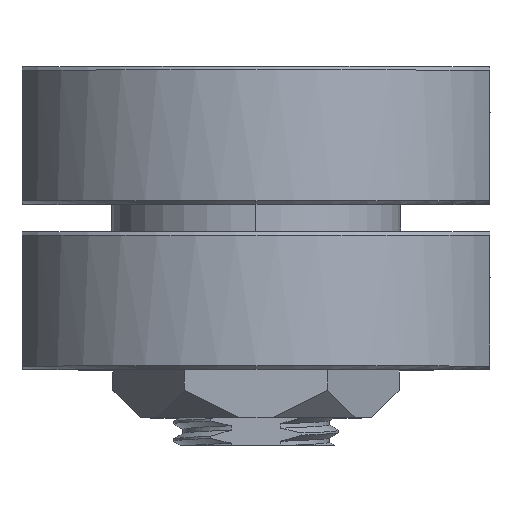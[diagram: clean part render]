
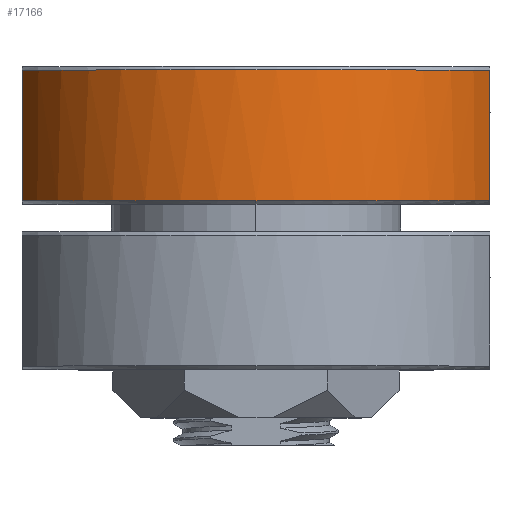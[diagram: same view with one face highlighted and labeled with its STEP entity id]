
A CAD part, top view. The second image highlights one B-rep face of the part: STEP entity #17166.
In plain terms, the highlighted cylindrical face has radius 18 mm (diameter 36 mm), a partial arc.
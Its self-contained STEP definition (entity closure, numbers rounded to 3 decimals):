
#13402 = CARTESIAN_POINT ( 'NONE',  ( 17., -10.5, 5.916 ) ) ;
#15048 = LINE ( 'NONE', #13402, #16969 ) ;
#15572 = ORIENTED_EDGE ( 'NONE', *, *, #107697, .T. ) ;
#15684 = EDGE_LOOP ( 'NONE', ( #76435, #79820, #54258, #52063, #15572 ) ) ;
#16969 = VECTOR ( 'NONE', #31929, 1000. ) ;
#17166 = ADVANCED_FACE ( 'NONE', ( #21940 ), #73151, .T. ) ;
#17733 = CARTESIAN_POINT ( 'NONE',  ( 0., 12.25, 0. ) ) ;
#21457 = AXIS2_PLACEMENT_3D ( 'NONE', #17733, #75212, #58308 ) ;
#21940 = FACE_OUTER_BOUND ( 'NONE', #15684, .T. ) ;
#30821 = EDGE_CURVE ( 'NONE', #86412, #109316, #60902, .T. ) ;
#31322 = CARTESIAN_POINT ( 'NONE',  ( 17., 12.25, 5.916 ) ) ;
#31717 = CARTESIAN_POINT ( 'NONE',  ( 0., 21.75, 0. ) ) ;
#31929 = DIRECTION ( 'NONE',  ( 0., 1., 0. ) ) ;
#32803 = DIRECTION ( 'NONE',  ( 0., -1., 0. ) ) ;
#36752 = CARTESIAN_POINT ( 'NONE',  ( 17., 21.75, 5.916 ) ) ;
#38117 = DIRECTION ( 'NONE',  ( 0., 1., 0. ) ) ;
#41807 = VERTEX_POINT ( 'NONE', #31322 ) ;
#43089 = EDGE_CURVE ( 'NONE', #86412, #94256, #47113, .T. ) ;
#45007 = DIRECTION ( 'NONE',  ( 0., 0., -1. ) ) ;
#45576 = CARTESIAN_POINT ( 'NONE',  ( 0., 0., 0. ) ) ;
#46062 = DIRECTION ( 'NONE',  ( 0., 0., -1. ) ) ;
#47113 = LINE ( 'NONE', #73568, #79548 ) ;
#52063 = ORIENTED_EDGE ( 'NONE', *, *, #30821, .T. ) ;
#53920 = DIRECTION ( 'NONE',  ( 0., 1., 0. ) ) ;
#54258 = ORIENTED_EDGE ( 'NONE', *, *, #43089, .F. ) ;
#54491 = AXIS2_PLACEMENT_3D ( 'NONE', #31717, #32803, #75040 ) ;
#57680 = VERTEX_POINT ( 'NONE', #36752 ) ;
#58308 = DIRECTION ( 'NONE',  ( 0., 0., -1. ) ) ;
#59634 = AXIS2_PLACEMENT_3D ( 'NONE', #45576, #98477, #45007 ) ;
#60902 = CIRCLE ( 'NONE', #21457, 18. ) ;
#73151 = CYLINDRICAL_SURFACE ( 'NONE', #59634, 18. ) ;
#73568 = CARTESIAN_POINT ( 'NONE',  ( -17., -10.5, 5.916 ) ) ;
#73593 = CARTESIAN_POINT ( 'NONE',  ( -17., 21.75, 5.916 ) ) ;
#75040 = DIRECTION ( 'NONE',  ( 0., 0., 1. ) ) ;
#75212 = DIRECTION ( 'NONE',  ( 0., 1., 0. ) ) ;
#76422 = CARTESIAN_POINT ( 'NONE',  ( -17., 12.25, 5.916 ) ) ;
#76435 = ORIENTED_EDGE ( 'NONE', *, *, #109669, .T. ) ;
#79548 = VECTOR ( 'NONE', #38117, 1000. ) ;
#79820 = ORIENTED_EDGE ( 'NONE', *, *, #101723, .T. ) ;
#85521 = CARTESIAN_POINT ( 'NONE',  ( 0., 12.25, 18. ) ) ;
#86412 = VERTEX_POINT ( 'NONE', #76422 ) ;
#94170 = CIRCLE ( 'NONE', #99601, 18. ) ;
#94256 = VERTEX_POINT ( 'NONE', #73593 ) ;
#98477 = DIRECTION ( 'NONE',  ( 0., -1., 0. ) ) ;
#99601 = AXIS2_PLACEMENT_3D ( 'NONE', #106276, #53920, #46062 ) ;
#101723 = EDGE_CURVE ( 'NONE', #57680, #94256, #103000, .T. ) ;
#103000 = CIRCLE ( 'NONE', #54491, 18. ) ;
#106276 = CARTESIAN_POINT ( 'NONE',  ( 0., 12.25, 0. ) ) ;
#107697 = EDGE_CURVE ( 'NONE', #109316, #41807, #94170, .T. ) ;
#109316 = VERTEX_POINT ( 'NONE', #85521 ) ;
#109669 = EDGE_CURVE ( 'NONE', #41807, #57680, #15048, .T. ) ;
